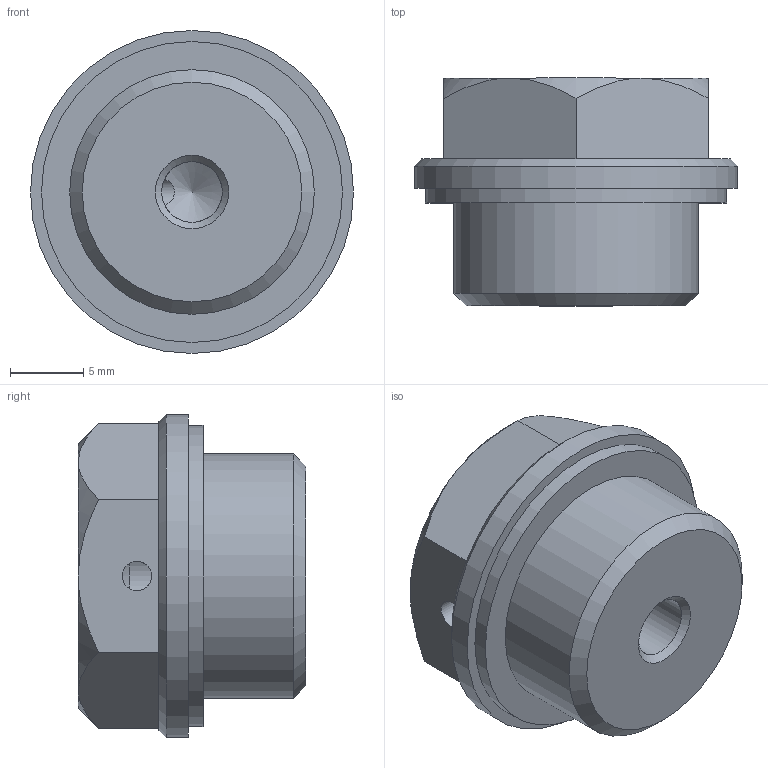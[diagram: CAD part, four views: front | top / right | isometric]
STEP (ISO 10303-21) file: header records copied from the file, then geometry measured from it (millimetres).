
FILE_DESCRIPTION( ( 'STEP AP203' ), '1' );
FILE_NAME( 'C:/Temp/Ganter_Step_05_03_2020/data/3_5/gn742/gn742_2/Threaded plug GN 742-22-G3_8-OSS-2.stp', '2020-03-12T13:39:46', ( 'License CC BY-ND 4.0' ), ( 'CADENAS' ), ' ', 'PARTsolutions', ' ' );
FILE_SCHEMA( ( 'CONFIG_CONTROL_DESIGN' ) );
Length unit declared in the file: millimetre
Products named in the file (1): _Threaded plug GN 742-22-G3/8-OSS-2
Bounding box: 22 x 15.5 x 22 mm (x, y, z)
Volume: 3932 mm3; surface area: 1799 mm2
Topology: 1 solids, 1 shells, 26 faces, 56 edges, 34 vertices
Faces by surface type: plane 11, cone 10, cylinder 5
Full cylindrical faces by diameter (mm): 2 x1, 4.134 x1, 16.662 x1, 20.5 x1, 22 x1
Entity records: 776 total; most frequent: CARTESIAN_POINT 229, DIRECTION 102, ORIENTED_EDGE 88, AXIS2_PLACEMENT_3D 45, EDGE_CURVE 44, EDGE_LOOP 39, VERTEX_POINT 32, FACE_OUTER_BOUND 31
